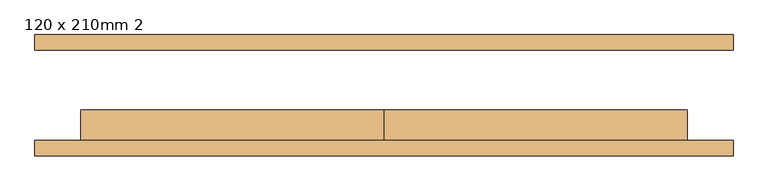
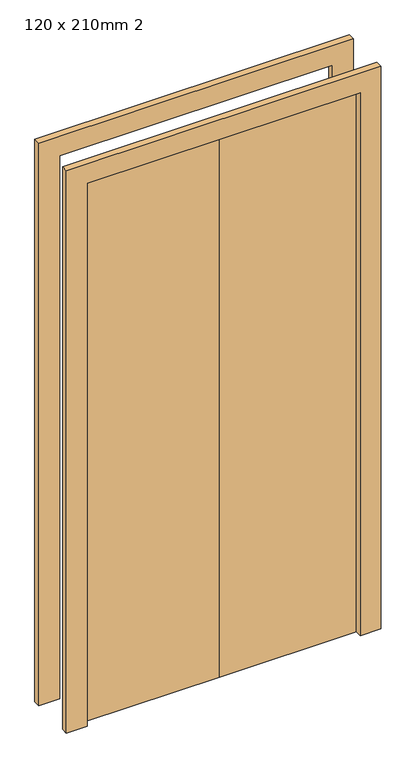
"""IFC4 building model written with IfcOpenShell, lengths in millimetres: door geometry, M_Double-Flushl : 120 x 210mm 2."""

from ifc_helpers import new_model, si_unit, frame, origin, origin_with_axes, place, context, project, spatial, polyline, outline, extrude, source, transform, mapped, element, save


def door_120_x_210mm_2_55e4457b(model_context):
    return source(origin(), model_context, "Body", "SweptSolid", [
        extrude(outline(polyline([(0.0, -75.0), (0.0, -24.0), (500.0, -24.0), (500.0, -75.0), (0.0, -75.0)])), origin_with_axes(), (0.0, 0.0, 1.0), 2100.0),
        extrude(outline(polyline([(-500.0, -75.0), (-500.0, -24.0), (0.0, -24.0), (0.0, -75.0), (-500.0, -75.0)])), origin_with_axes(), (0.0, 0.0, 1.0), 2100.0),
        extrude(outline(polyline([(2100.0, -500.0), (2100.0, 500.0), (0.0, 500.0), (0.0, 576.0), (2176.0, 576.0), (2176.0, -576.0), (0.0, -576.0), (0.0, -500.0), (2100.0, -500.0)])), frame((0.0, 75.0, 0.0), z_axis=(0.0, 1.0, 0.0), x_axis=(0.0, 0.0, 1.0)), (0.0, 0.0, 1.0), 25.0),
        extrude(outline(polyline([(2100.0, -500.0), (2100.0, 500.0), (0.0, 500.0), (0.0, 576.0), (2176.0, 576.0), (2176.0, -576.0), (0.0, -576.0), (0.0, -500.0), (2100.0, -500.0)])), frame((0.0, -100.0, 0.0), z_axis=(0.0, 1.0, 0.0), x_axis=(0.0, 0.0, 1.0)), (0.0, 0.0, 1.0), 25.0),
    ])


if __name__ == "__main__":
    model = new_model("IFC4")
    model_context = context("Model", 3, world=origin())
    ifc_project = project(units=[si_unit("LENGTHUNIT", "METRE", prefix="MILLI")], contexts=[model_context])
    site = spatial("IfcSite", under=ifc_project)
    building = spatial("IfcBuilding", under=site)
    placement = place(None, origin())
    door_120_x_210mm_2_shape = door_120_x_210mm_2_55e4457b(model_context)
    element("IfcDoor", 1, ObjectType="M_Double-Flushl : 120 x 210mm 2", at=placement, inside=building, context=model_context, shape_type="MappedRepresentation", body=[
        mapped(door_120_x_210mm_2_shape, transform((0.0, 0.0, 0.0), x_axis=(1.0, 0.0, 0.0), y_axis=(0.0, 1.0, 0.0), z_axis=(0.0, 0.0, 1.0))),
    ])
    save(model, "model.ifc")
